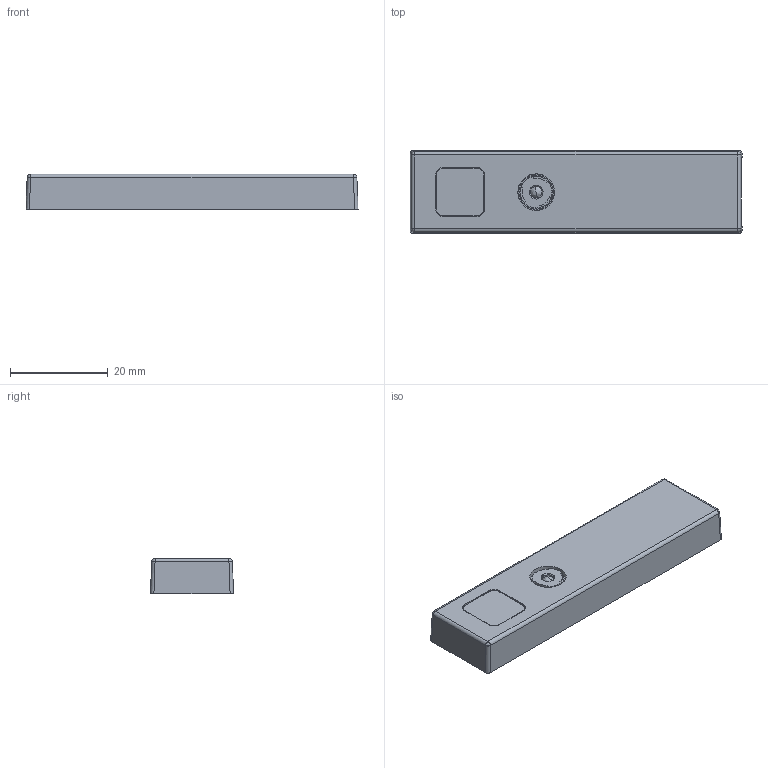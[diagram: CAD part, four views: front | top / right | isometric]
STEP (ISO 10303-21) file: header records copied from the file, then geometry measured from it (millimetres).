
FILE_DESCRIPTION (( 'STEP AP214' ), '1' );
FILE_NAME ('Pico_Flexx_Plastic.STEP', '2018-02-22T09:00:13', ( 'Jeder' ), ( 'ifm electronic gmbh' ), 'SwSTEP 2.0', 'SolidWorks 2016', '' );
FILE_SCHEMA (( 'AUTOMOTIVE_DESIGN' ));
Length unit declared in the file: metre
Products named in the file (26): J38-GSB343K33HR_A_9; J38-GSB343K33HR_A_2; J38-GSB343K33HR_A_3; PMD-4PIRW; J38-GSB343K33HR_A_6; F20-000503_SC5605; J38-GSB343K33HR_A_4; GN8-4IRFL; U15-IRS1145C_A; PMD-4LENS1_FoV_OFF; PMD-2PICO3; PMD-4LENS1_FoV_OFF_2; PMD-4PCAS; PMD-4PBCV; Pico_Flexx_Plastic; PMD-4PLHD; PMD-2PICO; J38-GSB343K33HR_A; J38-GSB343K33HR_A_11; J38-GSB343K33HR_A_12; J38-GSB343K33HR_A_10; J38-GSB343K33HR_A_8; J38-GSB343K33HR_A_7; J38-GSB343K33HR_A_5
Assembly tree (28 placements, depth 4):
  Pico_Flexx_Plastic
    PMD-4PCAS
    PMD-2PICO
      PMD-2PICO3
      U15-IRS1145C_A
      J38-GSB343K33HR_A
        J38-GSB343K33HR_A_4
        J38-GSB343K33HR_A_6
        J38-GSB343K33HR_A_3
        J38-GSB343K33HR_A_2
        J38-GSB343K33HR_A_9
        J38-GSB343K33HR_A_5
        J38-GSB343K33HR_A_7
        J38-GSB343K33HR_A_8
        J38-GSB343K33HR_A
        J38-GSB343K33HR_A_10
        J38-GSB343K33HR_A_12
        J38-GSB343K33HR_A_11
    PMD-4PLHD
    PMD-4PBCV
    PMD-4LENS1_FoV_OFF
      PMD-4LENS1_FoV_OFF
      PMD-4LENS1_FoV_OFF_2
    GN8-4IRFL
    F20-000503_SC5605  x4
    PMD-4PIRW
Bounding box: 68 x 17 x 7.25 mm (x, y, z)
Surface area: 11778.3 mm2 (no closed solid volume)
Topology: 0 solids, 55 shells, 1750 faces, 4967 edges, 3266 vertices
Faces by surface type: plane 890, cylinder 640, cone 126, bspline 90, sphere 4
Entity records: 71708 total; most frequent: CARTESIAN_POINT 14744, ORIENTED_EDGE 8414, DIRECTION 7819, EDGE_CURVE 4369, VECTOR 2955, LINE 2955, VERTEX_POINT 2891, AXIS2_PLACEMENT_3D 2432
